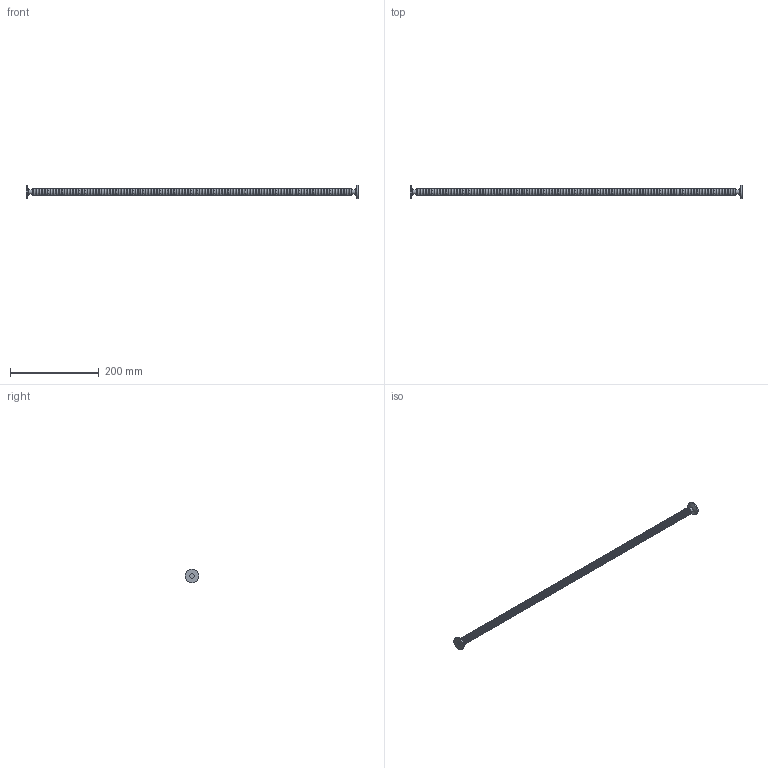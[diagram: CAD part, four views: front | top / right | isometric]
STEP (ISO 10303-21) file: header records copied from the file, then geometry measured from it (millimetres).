
FILE_DESCRIPTION( ( 'Unknown' ), '1' );
FILE_NAME( 'X:/Daten ( aktueller Bestand )/Projekte und Zeichnungen/Solid Edge/6 Verbindungsbauteile/Edelstahlschlauch/1931.stp', 'Unknown', ( 'Unknown' ), ( 'Unknown' ), 'XStep 1.0', 'Unknown', ' ' );
FILE_SCHEMA( ( 'automotive_design' ) );
Length unit declared in the file: millimetre
Products named in the file (1): 1
Bounding box: 750 x 30 x 30 mm (x, y, z)
Volume: 133252.3 mm3; surface area: 48875.5 mm2
Topology: 1 solids, 1 shells, 430 faces, 852 edges, 429 vertices
Faces by surface type: cylinder 214, torus 207, plane 7, cone 2
Full cylindrical faces by diameter (mm): 10 x4, 14 x206, 15.2 x2, 30 x2
Entity records: 12050 total; most frequent: DIRECTION 1720, CARTESIAN_POINT 1289, AXIS2_PLACEMENT_3D 860, EDGE_LOOP 858, ORIENTED_EDGE 858, FACE_OUTER_BOUND 851, STYLED_ITEM 430, PRESENTATION_STYLE_ASSIGNMENT 430
